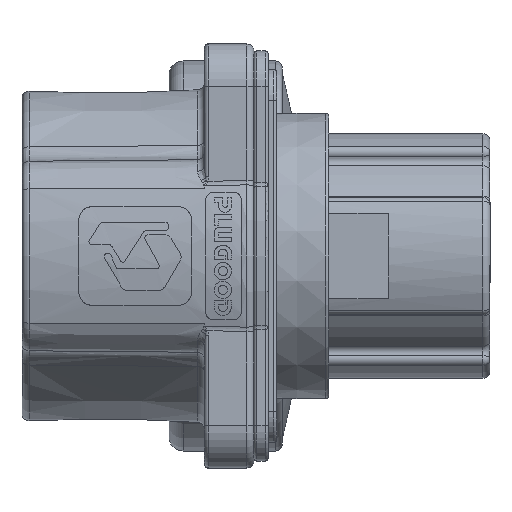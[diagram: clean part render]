
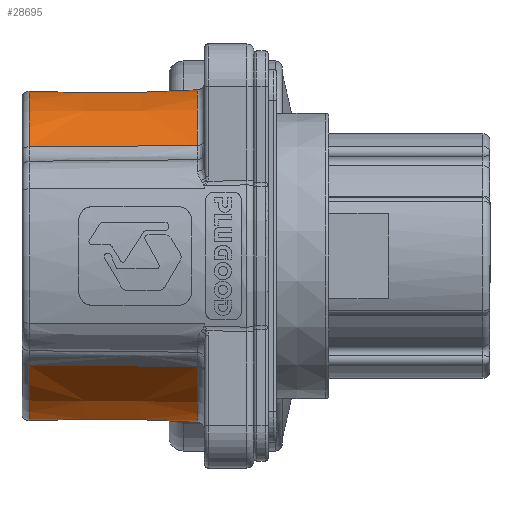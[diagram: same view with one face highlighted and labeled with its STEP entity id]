
A CAD part, front view. The second image highlights one B-rep face of the part: STEP entity #28695.
In plain terms, the highlighted conical face has half-angle 0.5 degrees and reference radius 11.65 mm.
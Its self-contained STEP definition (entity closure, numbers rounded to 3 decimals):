
#162 = CARTESIAN_POINT ( 'NONE',  ( -8.5, -18.075, -7.77 ) ) ;
#547 = DIRECTION ( 'NONE',  ( 1., 0., 0. ) ) ;
#666 = ORIENTED_EDGE ( 'NONE', *, *, #14047, .T. ) ;
#2916 = CARTESIAN_POINT ( 'NONE',  ( -12.769, -18.056, -7.735 ) ) ;
#3158 = CARTESIAN_POINT ( 'NONE',  ( -13.07, -18.055, 7.733 ) ) ;
#3348 = CARTESIAN_POINT ( 'NONE',  ( -14.904, -18.047, -7.718 ) ) ;
#3604 = CARTESIAN_POINT ( 'NONE',  ( -14.904, -18.047, 7.718 ) ) ;
#3823 = CARTESIAN_POINT ( 'NONE',  ( -2.996, -18.1, 7.814 ) ) ;
#5821 = EDGE_CURVE ( 'NONE', #31221, #37668, #38905, .T. ) ;
#6131 = DIRECTION ( 'NONE',  ( -1., 0., 0. ) ) ;
#6342 = CARTESIAN_POINT ( 'NONE',  ( -6.665, -18.084, -7.785 ) ) ;
#6801 = CARTESIAN_POINT ( 'NONE',  ( -2.996, -18.1, -7.814 ) ) ;
#7879 = EDGE_CURVE ( 'NONE', #37668, #42173, #45189, .T. ) ;
#8973 = AXIS2_PLACEMENT_3D ( 'NONE', #20825, #13696, #38246 ) ;
#9998 = CARTESIAN_POINT ( 'NONE',  ( -10.635, -18.066, -7.752 ) ) ;
#10033 = EDGE_CURVE ( 'NONE', #26533, #31221, #36456, .T. ) ;
#12242 = CARTESIAN_POINT ( 'NONE',  ( -2.996, -18.1, 7.814 ) ) ;
#12653 = CIRCLE ( 'NONE', #8973, 11.654 ) ;
#13696 = DIRECTION ( 'NONE',  ( 1., 0., 0. ) ) ;
#13710 = CARTESIAN_POINT ( 'NONE',  ( -5.131, -18.09, 7.797 ) ) ;
#14047 = EDGE_CURVE ( 'NONE', #42173, #26533, #12653, .T. ) ;
#17575 = AXIS2_PLACEMENT_3D ( 'NONE', #30901, #6131, #34117 ) ;
#20825 = CARTESIAN_POINT ( 'NONE',  ( -14.904, -9.314, 0. ) ) ;
#24349 = ORIENTED_EDGE ( 'NONE', *, *, #5821, .T. ) ;
#26533 = VERTEX_POINT ( 'NONE', #40753 ) ;
#28695 = ADVANCED_FACE ( 'NONE', ( #42531 ), #38731, .T. ) ;
#29457 = CARTESIAN_POINT ( 'NONE',  ( -2.996, -18.1, -7.814 ) ) ;
#30045 = ORIENTED_EDGE ( 'NONE', *, *, #7879, .T. ) ;
#30901 = CARTESIAN_POINT ( 'NONE',  ( -2.996, -9.314, 0. ) ) ;
#30913 = CARTESIAN_POINT ( 'NONE',  ( -14.904, -18.047, -7.718 ) ) ;
#30932 = CARTESIAN_POINT ( 'NONE',  ( -7.265, -18.081, 7.78 ) ) ;
#31221 = VERTEX_POINT ( 'NONE', #12242 ) ;
#31584 = CARTESIAN_POINT ( 'NONE',  ( -4.83, -18.092, -7.8 ) ) ;
#32198 = CARTESIAN_POINT ( 'NONE',  ( -15.4, -9.314, 0. ) ) ;
#33290 = EDGE_LOOP ( 'NONE', ( #40650, #24349, #30045, #666 ) ) ;
#34117 = DIRECTION ( 'NONE',  ( 0., 0., 1. ) ) ;
#34369 = CARTESIAN_POINT ( 'NONE',  ( -11.235, -18.063, 7.747 ) ) ;
#35417 = DIRECTION ( 'NONE',  ( 0., 0., 1. ) ) ;
#36456 = B_SPLINE_CURVE_WITH_KNOTS ( 'NONE', 3,
 ( #3604, #3158, #34369, #45339, #30932, #13710, #3823 ),
 .UNSPECIFIED., .F., .F.,
 ( 4, 3, 4 ),
 ( 0., 0.006, 0.012 ),
 .UNSPECIFIED. ) ;
#37668 = VERTEX_POINT ( 'NONE', #29457 ) ;
#38246 = DIRECTION ( 'NONE',  ( 0., 0., -1. ) ) ;
#38731 = CONICAL_SURFACE ( 'NONE', #43155, 11.65, 0.009 ) ;
#38905 = CIRCLE ( 'NONE', #17575, 11.758 ) ;
#40650 = ORIENTED_EDGE ( 'NONE', *, *, #10033, .T. ) ;
#40753 = CARTESIAN_POINT ( 'NONE',  ( -14.904, -18.047, 7.718 ) ) ;
#42173 = VERTEX_POINT ( 'NONE', #3348 ) ;
#42531 = FACE_OUTER_BOUND ( 'NONE', #33290, .T. ) ;
#43155 = AXIS2_PLACEMENT_3D ( 'NONE', #32198, #547, #35417 ) ;
#45189 = B_SPLINE_CURVE_WITH_KNOTS ( 'NONE', 3,
 ( #6801, #31584, #6342, #162, #9998, #2916, #30913 ),
 .UNSPECIFIED., .F., .F.,
 ( 4, 3, 4 ),
 ( 0., 0.006, 0.012 ),
 .UNSPECIFIED. ) ;
#45339 = CARTESIAN_POINT ( 'NONE',  ( -9.4, -18.071, 7.762 ) ) ;
